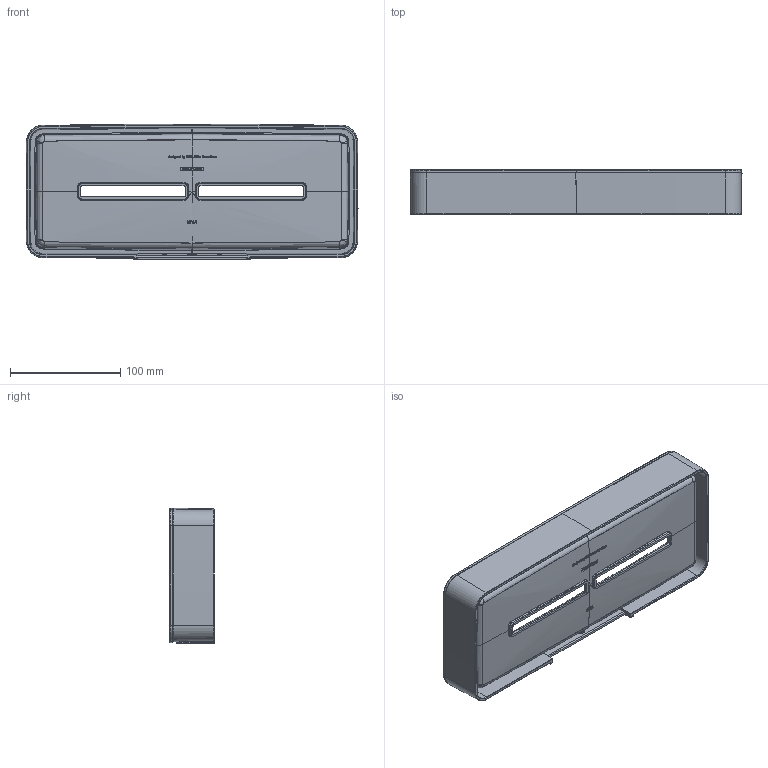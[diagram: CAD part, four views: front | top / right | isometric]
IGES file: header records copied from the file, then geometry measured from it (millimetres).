
Start section: SolidWorks IGES file using analytic representation for surfaces
Global section: file name: G:\Projects\New project\For Marketing\IGS\IGS\2015-10-29\2510549VW.IGS; native system: SolidWorks 2010; preprocessor: SolidWorks 2010; author: linda; date: 151013.145409; units: millimetre
Bounding box: 301.28 x 40.5 x 123.01 mm (x, y, z)
Surface area: 168523 mm2 (no closed solid volume)
Topology: 0 solids, 0 shells, 419 faces, 7767 edges, 7755 vertices
Faces by surface type: bspline 339, revolution 80
